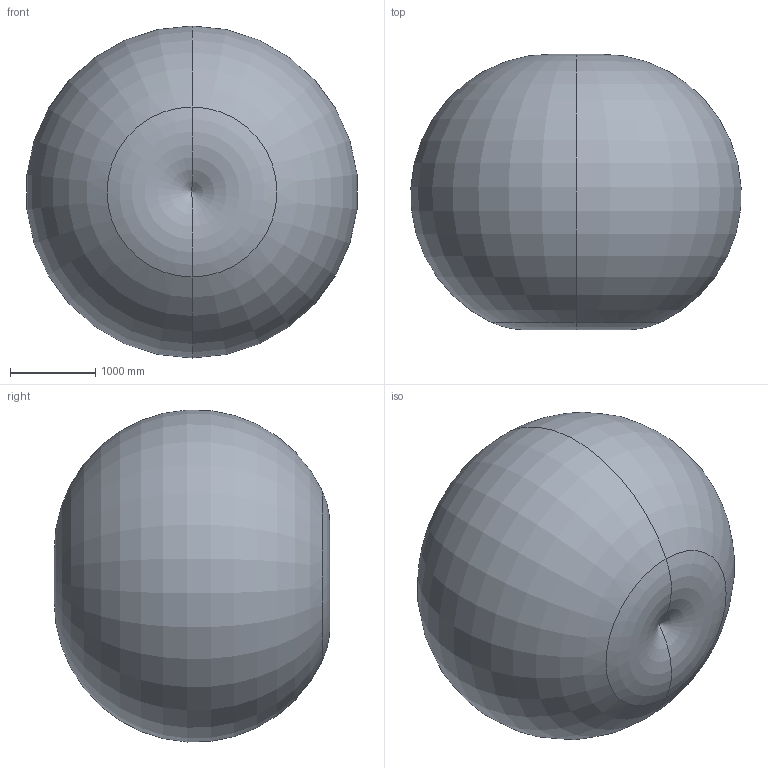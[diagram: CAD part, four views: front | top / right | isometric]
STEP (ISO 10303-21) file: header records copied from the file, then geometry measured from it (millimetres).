
FILE_DESCRIPTION (( 'STEP AP214' ), '1' );
FILE_NAME ('SMART5 Arc4 (3D-STEP).STEP', '2010-03-08T14:30:45', ( '' ), ( '' ), 'SwSTEP 2.0', 'SolidWorks 2007', '' );
FILE_SCHEMA (( 'AUTOMOTIVE_DESIGN' ));
Length unit declared in the file: millimetre
Products named in the file (18): SMART5 Arc4_p02; SMART5 Arc4_p01; SMART5 Arc4 (3D-STEP); SMART5 Arc4_p06; SMART5 Arc4_p05; SMART5 Arc4_p04; SMART5 Arc4_p03; SMART5 Arc4_p08; SMART5 Arc4_p13; SMART5 Arc4_p07; SMART5 Arc4_p12; SMART5 Arc4_p11; SMART5 Arc4_p10; SMART5 Arc4_p09; Operation area SMART5 Arc4; SMART5 Arc4_CR82350050_SM; SMART5 Arc4_CR82350030_SM; SMART5 Arc4_CR82350020_SM
Assembly tree (18 placements, depth 2):
  SMART5 Arc4 (3D-STEP)
    SMART5 Arc4_p06
    SMART5 Arc4_p12
    SMART5 Arc4_p10
    SMART5 Arc4_p04
    SMART5 Arc4_p03
    SMART5 Arc4_p11
    SMART5 Arc4_CR82350020_SM
    SMART5 Arc4_p02
    SMART5 Arc4_p08
    SMART5 Arc4_p07
    SMART5 Arc4_p05
    SMART5 Arc4_p01
    SMART5 Arc4_CR82350050_SM
    SMART5 Arc4_p13
    SMART5 Arc4_CR82350030_SM  x2
    SMART5 Arc4_p09
    Operation area SMART5 Arc4
Bounding box: 3876.17 x 3235.95 x 3897.52 mm (x, y, z)
Volume: 26756390113.5 mm3; surface area: 56448097.7 mm2
Topology: 18 solids, 19 shells, 2501 faces, 6621 edges, 4274 vertices
Faces by surface type: plane 1114, cylinder 1081, cone 171, torus 81, bspline 48, sphere 6
Entity records: 89840 total; most frequent: CARTESIAN_POINT 21525, DIRECTION 12771, ORIENTED_EDGE 12552, EDGE_CURVE 6276, AXIS2_PLACEMENT_3D 4646, VERTEX_POINT 4097, VECTOR 3479, LINE 3479
